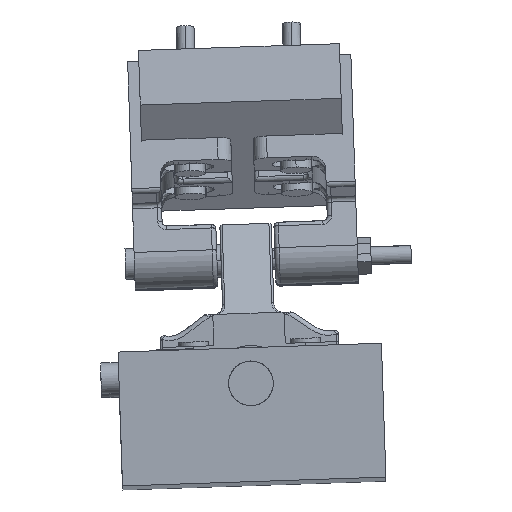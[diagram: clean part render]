
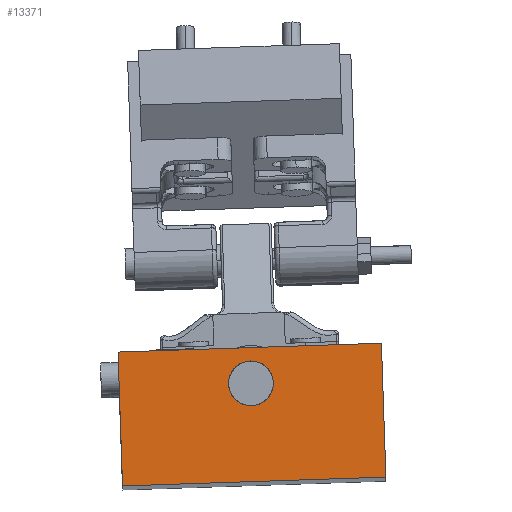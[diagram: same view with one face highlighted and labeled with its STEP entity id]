
A CAD part, top view. The second image highlights one B-rep face of the part: STEP entity #13371.
In plain terms, the highlighted planar face has unit normal (0, 0, 1).
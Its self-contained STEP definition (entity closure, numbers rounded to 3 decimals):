
#210 = ORIENTED_EDGE ( 'NONE', *, *, #10659, .F. ) ;
#1348 = CARTESIAN_POINT ( 'NONE',  ( 0., 0., 260. ) ) ;
#1590 = VERTEX_POINT ( 'NONE', #22516 ) ;
#1933 = ORIENTED_EDGE ( 'NONE', *, *, #2497, .T. ) ;
#2497 = EDGE_CURVE ( 'NONE', #17984, #14087, #16574, .T. ) ;
#2611 = DIRECTION ( 'NONE',  ( 1., 0., 0. ) ) ;
#2669 = CARTESIAN_POINT ( 'NONE',  ( 59., 30., 260. ) ) ;
#2813 = DIRECTION ( 'NONE',  ( 1., 0., 0. ) ) ;
#2853 = ORIENTED_EDGE ( 'NONE', *, *, #13816, .T. ) ;
#3109 = VECTOR ( 'NONE', #12409, 1000. ) ;
#3240 = CARTESIAN_POINT ( 'NONE',  ( 59., 0., 260. ) ) ;
#3427 = CIRCLE ( 'NONE', #5695, 5. ) ;
#3728 = EDGE_CURVE ( 'NONE', #13718, #17984, #5662, .T. ) ;
#4110 = DIRECTION ( 'NONE',  ( 0., 1., 0. ) ) ;
#4201 = VERTEX_POINT ( 'NONE', #2669 ) ;
#4486 = VERTEX_POINT ( 'NONE', #17807 ) ;
#5662 = LINE ( 'NONE', #12787, #11691 ) ;
#5695 = AXIS2_PLACEMENT_3D ( 'NONE', #6716, #13495, #6482 ) ;
#6346 = PLANE ( 'NONE',  #6598 ) ;
#6403 = LINE ( 'NONE', #13529, #9225 ) ;
#6482 = DIRECTION ( 'NONE',  ( 1., 0., 0. ) ) ;
#6598 = AXIS2_PLACEMENT_3D ( 'NONE', #13588, #17059, #2611 ) ;
#6716 = CARTESIAN_POINT ( 'NONE',  ( 29.5, 22., 260. ) ) ;
#7278 = AXIS2_PLACEMENT_3D ( 'NONE', #10363, #15721, #22837 ) ;
#7494 = EDGE_CURVE ( 'NONE', #1590, #4486, #3427, .T. ) ;
#8775 = LINE ( 'NONE', #12647, #3109 ) ;
#9225 = VECTOR ( 'NONE', #4110, 1000. ) ;
#9811 = CARTESIAN_POINT ( 'NONE',  ( 0., 0., 260. ) ) ;
#9952 = FACE_OUTER_BOUND ( 'NONE', #12466, .T. ) ;
#10363 = CARTESIAN_POINT ( 'NONE',  ( 29.5, 22., 260. ) ) ;
#10659 = EDGE_CURVE ( 'NONE', #4486, #1590, #17302, .T. ) ;
#11174 = ORIENTED_EDGE ( 'NONE', *, *, #20969, .T. ) ;
#11324 = VECTOR ( 'NONE', #2813, 1000. ) ;
#11691 = VECTOR ( 'NONE', #19862, 1000. ) ;
#12409 = DIRECTION ( 'NONE',  ( -1., 0., 0. ) ) ;
#12466 = EDGE_LOOP ( 'NONE', ( #18469, #1933, #2853, #11174 ) ) ;
#12647 = CARTESIAN_POINT ( 'NONE',  ( 0., 30., 260. ) ) ;
#12787 = CARTESIAN_POINT ( 'NONE',  ( 0., 30., 260. ) ) ;
#13371 = ADVANCED_FACE ( 'NONE', ( #9952, #15210 ), #6346, .T. ) ;
#13495 = DIRECTION ( 'NONE',  ( 0., 0., 1. ) ) ;
#13529 = CARTESIAN_POINT ( 'NONE',  ( 59., 30., 260. ) ) ;
#13588 = CARTESIAN_POINT ( 'NONE',  ( 0., 0., 260. ) ) ;
#13718 = VERTEX_POINT ( 'NONE', #14624 ) ;
#13816 = EDGE_CURVE ( 'NONE', #14087, #4201, #6403, .T. ) ;
#14087 = VERTEX_POINT ( 'NONE', #3240 ) ;
#14624 = CARTESIAN_POINT ( 'NONE',  ( 0., 30., 260. ) ) ;
#14846 = EDGE_LOOP ( 'NONE', ( #19387, #210 ) ) ;
#15210 = FACE_BOUND ( 'NONE', #14846, .T. ) ;
#15721 = DIRECTION ( 'NONE',  ( 0., 0., 1. ) ) ;
#16574 = LINE ( 'NONE', #9811, #11324 ) ;
#17059 = DIRECTION ( 'NONE',  ( 0., 0., 1. ) ) ;
#17302 = CIRCLE ( 'NONE', #7278, 5. ) ;
#17807 = CARTESIAN_POINT ( 'NONE',  ( 34.5, 22., 260. ) ) ;
#17984 = VERTEX_POINT ( 'NONE', #1348 ) ;
#18469 = ORIENTED_EDGE ( 'NONE', *, *, #3728, .T. ) ;
#19387 = ORIENTED_EDGE ( 'NONE', *, *, #7494, .F. ) ;
#19862 = DIRECTION ( 'NONE',  ( 0., -1., 0. ) ) ;
#20969 = EDGE_CURVE ( 'NONE', #4201, #13718, #8775, .T. ) ;
#22516 = CARTESIAN_POINT ( 'NONE',  ( 24.5, 22., 260. ) ) ;
#22837 = DIRECTION ( 'NONE',  ( 1., 0., 0. ) ) ;
